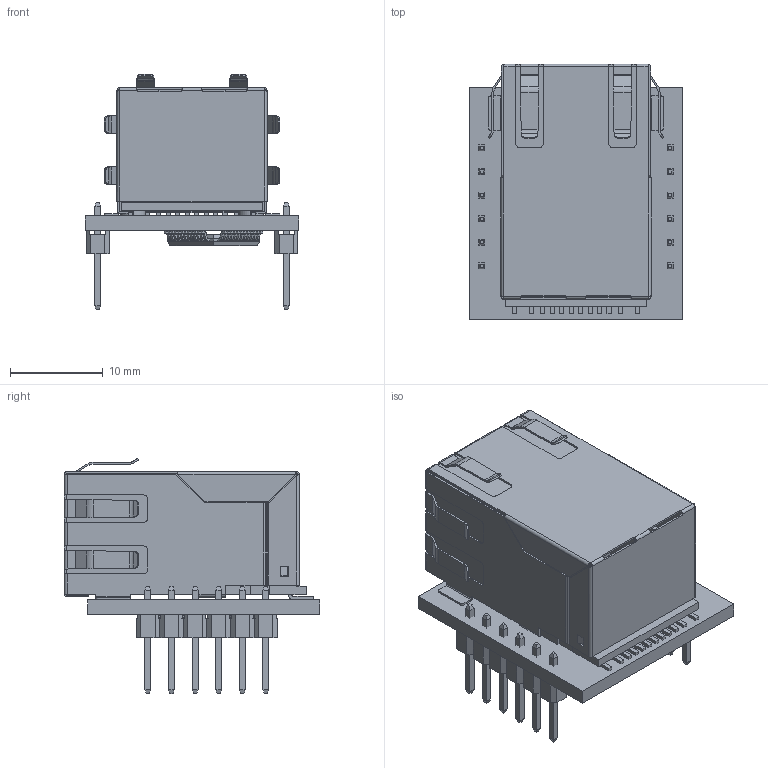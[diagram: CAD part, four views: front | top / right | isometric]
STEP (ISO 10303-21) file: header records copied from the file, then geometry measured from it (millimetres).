
FILE_DESCRIPTION(('Open CASCADE Model'),'2;1');
FILE_NAME('Open CASCADE Shape Model','2025-04-15T11:49:40',('Author'),( 'Open CASCADE'),'Open CASCADE STEP processor 6.8','Open CASCADE 6.8' ,'Unknown');
FILE_SCHEMA(('AUTOMOTIVE_DESIGN { 1 0 10303 214 1 1 1 1 }'));
Length unit declared in the file: millimetre
Products named in the file (37): PCB; Board; Free-Models; 48LQFP_W5500_WIZ; PH1-06-UA; 1X1RJ45_SMT; shell_1_1; 2pin-LED_1_1; 1X1RJ45INSERT_ASM_1_1; 1X1RJ45_SMT_-INSERT_ANY_ASM_1_1; 1X1RJ45-ASSEMBLY______ANY_ASM_1_1; INSERT-BACK______ANY_ASM_1_1; NONE-13189_1_1; P-﹗+L-7Pin-AA; P-﹗+L-5Pin-AA; INSERT-BASE______ANY_ASM_1_1; NONE-7716_1_1; NONE-7504_1_1; NONE-7331_1_1; NONE-9391_1_1; NONE-9671_1_1; NONE-7378_1_1; NONE-8804_1_1; NONE-7584_1_1; NONE-9277_1_1; NONE-8689_1_1; NONE-11975_1_1; NONE-9500_1_1; NONE-9088_1_1; NONE-7282_1_1; NONE-7481_1_1; NONE-11532_1_1; NONE-8997_1_1; NONE-8523_1_1; NONE-7607_1_1; led1; 1X1RJ45-housing_-¦L¡
Assembly tree (44 placements, depth 8):
  PCB
    Board
    Free-Models
      48LQFP_W5500_WIZ
      PH1-06-UA  x2
      1X1RJ45_SMT
        shell_1_1
        2pin-LED_1_1
        1X1RJ45INSERT_ASM_1_1
          1X1RJ45_SMT_-INSERT_ANY_ASM_1_1
            1X1RJ45-ASSEMBLY______ANY_ASM_1_1
              INSERT-BACK______ANY_ASM_1_1
                NONE-13189_1_1
              P-﹗+L-7Pin-AA
              P-﹗+L-5Pin-AA
            INSERT-BASE______ANY_ASM_1_1
              NONE-7716_1_1  x8
              NONE-7504_1_1
              NONE-7331_1_1
              NONE-9391_1_1
              NONE-9671_1_1
              NONE-7378_1_1
              NONE-8804_1_1
              NONE-7584_1_1
              NONE-9277_1_1
              NONE-8689_1_1
              NONE-11975_1_1
              NONE-9500_1_1
              NONE-9088_1_1
              NONE-7282_1_1
              NONE-7481_1_1
              NONE-11532_1_1
              NONE-8997_1_1
              NONE-8523_1_1
              NONE-7607_1_1
        led1
        1X1RJ45-housing_-¦L¡
Bounding box: 23 x 27.5 x 25.34 mm (x, y, z)
Volume: 3481 mm3; surface area: 10386.9 mm2
Topology: 98 solids, 98 shells, 2547 faces, 6676 edges, 4296 vertices
Faces by surface type: plane 1964, cylinder 503, bspline 76, cone 4
Full cylindrical faces by diameter (mm): 0.28 x1
Entity records: 90113 total; most frequent: CARTESIAN_POINT 15989, ORIENTED_EDGE 12164, DIRECTION 11255, EDGE_CURVE 6082, LINE 5075, VECTOR 5075, VERTEX_POINT 3916, AXIS2_PLACEMENT_3D 3090
